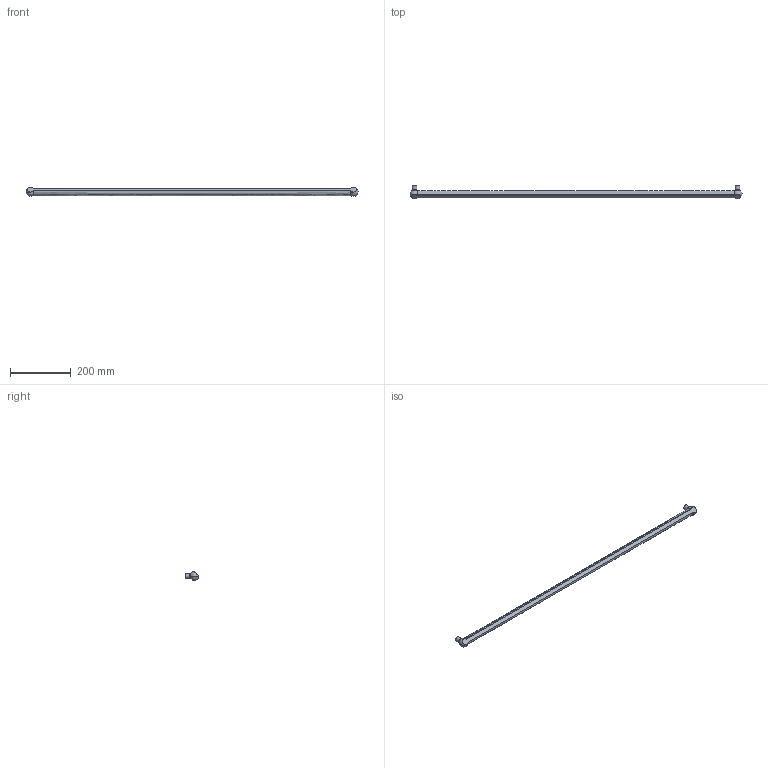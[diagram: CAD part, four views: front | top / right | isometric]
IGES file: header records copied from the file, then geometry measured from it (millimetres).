
Start section: Data from Parasolid IGES Translator 15.0.47, Copyright(c) 2006 Siemens P LM Software. All Rights Reserved.
Global section: file name: 9105775.igs; native system:  By UGS Corp.; preprocessor: XPlus GENERIC/IGES 3.0; author: Noname; organization: Noname; date: 20140122.155803; units: millimetre
Bounding box: 1094.93 x 45 x 29.96 mm (x, y, z)
Surface area: 84754.2 mm2 (no closed solid volume)
Topology: 0 solids, 0 shells, 17 faces, 78 edges, 68 vertices
Faces by surface type: revolution 12, extrusion 5
